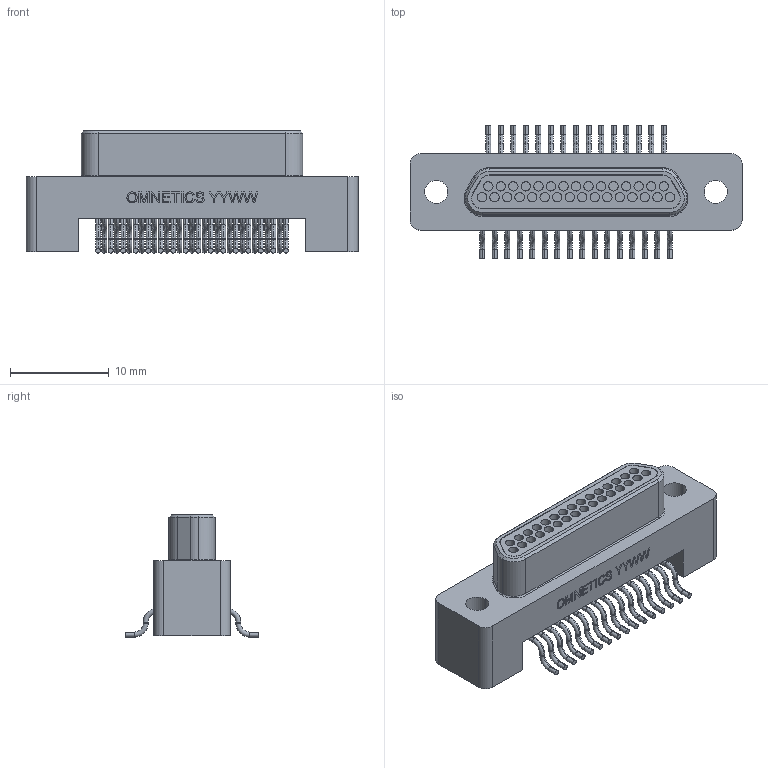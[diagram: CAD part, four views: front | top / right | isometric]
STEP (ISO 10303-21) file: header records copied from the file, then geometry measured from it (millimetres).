
FILE_DESCRIPTION (( 'STEP AP214' ), '1' );
FILE_NAME ('A98002-031 REV A.STEP', '2021-01-22T21:23:08', ( '' ), ( '' ), 'SwSTEP 2.0', 'SolidWorks 2019', '' );
FILE_SCHEMA (( 'AUTOMOTIVE_DESIGN' ));
Length unit declared in the file: inch
Products named in the file (1): A98002-031 REV A
Bounding box: 33.66 x 13.51 x 12.4 mm (x, y, z)
Volume: 1508.8 mm3; surface area: 3078 mm2
Topology: 1 solids, 3 shells, 992 faces, 2172 edges, 1294 vertices
Faces by surface type: cylinder 423, plane 253, torus 191, cone 71, bspline 54
Entity records: 43003 total; most frequent: CARTESIAN_POINT 8049, DIRECTION 4917, ORIENTED_EDGE 4332, EDGE_CURVE 2166, AXIS2_PLACEMENT_3D 1986, VERTEX_POINT 1294, EDGE_LOOP 1110, CIRCLE 1047
